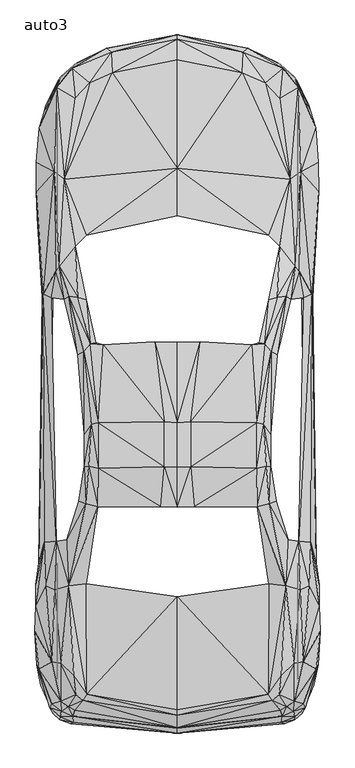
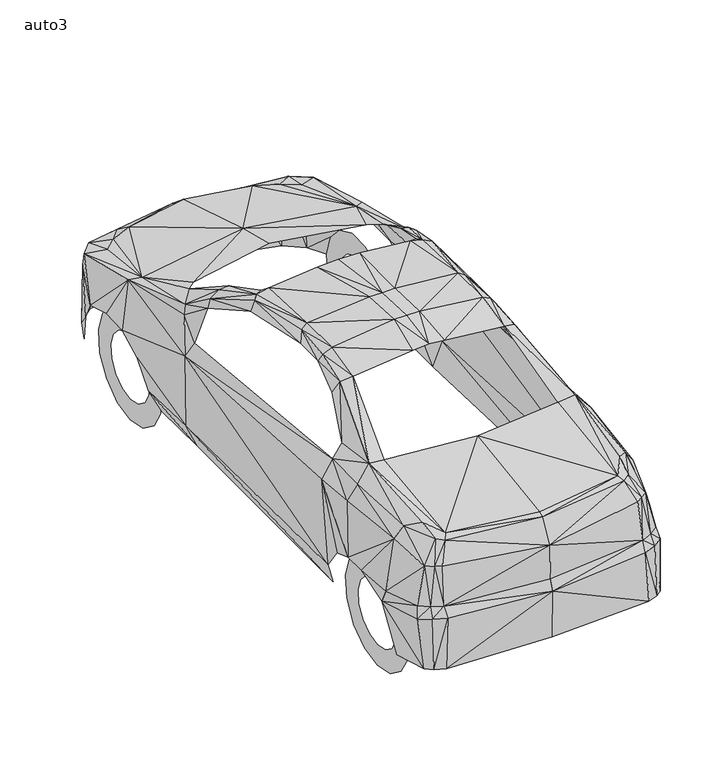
"""IFC4 building model written with IfcOpenShell, lengths in millimetres: proxy geometry, M_RPC maschio : auto3."""

from ifc_helpers import new_model, si_unit, origin, place, context, project, spatial, triangles, source, transform, mapped, element, save


def auto3_8ea4b4d7(model_context):
    return source(origin(), model_context, "Body", "Tessellation", [
        triangles([(496.2733054, 203.2735481, 1064.7400967), (600.6846285, 441.3478063, 1057.9405844), (589.0478751, 193.6903394, 1081.1228176), (432.79593, 622.4704353, 1292.4554123), (724.4905163, 430.0761469, 887.4507002), (658.7315214, 433.2249009, 985.7926626), (753.9246935, 315.8534314, 452.3730781), (696.5623518, 363.4500175, 300.5932982), (728.0956741, 1776.5168541, 815.4397614), (685.6557501, 1756.4378471, 891.8316101), (554.4570359, 2841.3940063, 757.9861462), (765.7439575, 2493.7515633, 655.4458208), (669.8205975, 2441.2722084, 855.7349035), (656.9061241, 2899.6689377, 731.6094858), (353.0271435, 2978.4338974, 739.8693014), (0.0, 3048.8476227, 740.8732372), (767.4780813, 2331.7496784, 650.1066118), (382.9632523, 3111.6403015, 603.9702928), (319.9878811, 3089.7358246, 278.734458), (0.0, 3141.3940086, 279.920959), (0.0, 3184.198954, 591.6946612), (723.577854, 2766.0058754, 454.8373172), (550.0305256, 3031.2327095, 276.8178236), (714.3141026, 2801.3269753, 295.299726), (645.4518814, 2944.9382675, 283.6629726), (561.7129157, 3020.9650223, 624.0494087), (358.5032627, 3090.1465553, 658.3664274), (572.1175495, 3002.8481049, 705.2328981), (0.0, 3159.6475456, 649.2395136), (475.6465848, 2925.4978844, 738.5459084), (750.5020826, 2679.3463394, 584.2562708), (633.4957071, 2956.438147, 622.0414644), (745.4823309, 2107.8220676, 410.0244275), (677.9891396, 2089.1576546, 275.0380812), (734.2562719, 1756.8029411, 406.9669106), (676.2094517, 1748.8624374, 277.5023385), (760.4047485, 2195.4399754, 565.363674), (90.0821559, 620.7363115, 1329.1453239), (71.2808144, 838.5489613, 1378.0196663), (72.2391362, 1082.2362671, 1368.2083466), (0.0, 1078.3573614, 1369.9423977), (0.0, 617.9526878, 1340.0975624), (0.0, 837.3624784, 1379.7994995), (0.0, 2203.4259705, 986.4772139), (0.0, 2461.1686684, 921.7677189), (660.3286623, 1901.50937, 968.9080101), (613.5535378, 2401.1595406, 876.0421669), (554.5939462, 2035.4004707, 1007.195208), (496.2733054, 1745.3486984, 1180.5143526), (591.0101463, 1764.286932, 1122.9694639), (614.1923796, 1747.6303905, 1084.1346977), (640.9341339, 1927.8859577, 1007.788413), (495.9082114, 2096.4134617, 989.4434572), (540.8580113, 1760.0428596, 1161.7130293), (473.912461, 1505.7227726, 1265.8048588), (541.3143788, 1448.3604309, 1221.5396828), (123.4864851, 1516.5837376, 1301.6734543), (404.2744878, 1502.2546703, 1283.8761395), (444.3870466, 1513.7087677, 1274.6123154), (0.0, 1515.6711479, 1307.1039368), (509.324689, 1466.9792072, 1265.5311836), (431.2900263, 831.8407225, 1340.5539299), (431.3356267, 1078.7680922, 1338.956789), (481.6246719, 841.3326576, 1310.9372784), (505.6739671, 842.7929609, 1278.7651142), (467.8887371, 1070.5082766, 1314.588073), (505.8108773, 1015.24508, 1278.5369305), (536.2033173, 651.630792, 1215.1964653), (498.5549975, 636.7996479, 1271.7373455), (754.4266977, -260.279934, 640.1126724), (774.2319569, -54.7429385, 650.7454536), (716.2307734, 193.0514431, 899.9088787), (682.7807802, -448.5215326, 641.5729757), (633.0849764, -434.4661406, 855.6892668), (569.0143959, -516.2885081, 639.9757622), (0.0, -579.7202105, 848.3421135), (0.0, -581.8193919, 646.9121847), (630.4381903, -487.4476087, 641.9837065), (694.7369545, -470.1521891, 578.1869102), (635.9143095, -518.7071105, 585.2602066), (638.059164, -533.6751649, 291.1469998), (578.9170618, -556.6292507, 291.3295286), (564.6791591, -547.730557, 585.1233327), (0.0, -607.2833536, 586.3098155), (0.0, -606.0968708, 310.5872194), (741.466515, -346.9851431, 304.2440565), (674.9316954, -502.6438468, 289.3672574), (763.9186329, -236.6869882, 567.8279131), (770.0792307, 198.2993968, 598.9505047), (770.9006922, 86.4953018, 641.3904287), (635.0929207, -228.4271726, 973.8821251), (492.5312737, -397.7305195, 985.1538208), (564.4509753, -296.0116193, 1012.8082375), (551.8102498, -399.4190065, 970.4139502), (593.4743855, -464.4479224, 860.2982878), (558.7010356, -484.2988546, 858.7923477), (514.2075668, -427.9860855, 966.5806812), (0.0, -511.633814, 978.5824923), (0.0, -479.5985238, 990.7212135), (0.0, 132.3578004, 1078.5216682), (683.0546007, -219.2546765, 906.7540277), (667.1738113, 170.6449983, 994.828303), (-496.2733054, 203.2735481, 1064.7400967), (-600.6846285, 441.3478063, 1057.9405844), (-589.0478751, 193.6903394, 1081.1228176), (-432.79593, 622.4704353, 1292.4554123), (-724.4905163, 430.0761469, 887.4507002), (-658.7315214, 433.2249009, 985.7926626), (-753.9246935, 315.8534314, 452.3730781), (-696.5623518, 363.4500175, 300.5932982), (-728.0956741, 1776.5168541, 815.4397614), (-685.6101133, 1756.4378471, 891.8316101), (-554.4570359, 2841.3940063, 757.9861462), (-765.7439575, 2493.7515633, 655.4458208), (-669.8205975, 2441.2722084, 855.7349035), (-656.9061241, 2899.6689377, 731.6094858), (-353.0271435, 2978.4338974, 739.8693014), (-767.4780813, 2331.7496784, 650.1066118), (-382.9632523, 3111.6403015, 603.9702928), (-319.9422443, 3089.7358246, 278.734458), (-723.577854, 2766.0058754, 454.8373172), (-550.0305256, 3031.2327095, 276.8178236), (-714.3141026, 2801.3269753, 295.299726), (-645.4518814, 2944.9382675, 283.6629726), (-561.7129157, 3020.9650223, 624.0494087), (-358.5032627, 3090.1465553, 658.3664274), (-572.1175495, 3002.8481049, 705.2328981), (-475.6465848, 2925.4978844, 738.5459084), (-750.5020826, 2679.3463394, 584.2562708), (-633.4957071, 2956.438147, 622.0414644), (-745.4823309, 2107.8220676, 410.0244275), (-677.9891396, 2089.1576546, 275.0380812), (-734.2562719, 1756.8029411, 406.9669106), (-676.2094517, 1748.8624374, 277.5023385), (-760.4047485, 2195.4399754, 565.363674), (-90.0821559, 620.7363115, 1329.1453239), (-71.2808144, 838.5489613, 1378.0196663), (-72.2391362, 1082.2362671, 1368.2083466), (-660.3286623, 1901.50937, 968.9080101), (-613.5535378, 2401.1595406, 876.0421669), (-554.5939462, 2035.4004707, 1007.195208), (-496.2733054, 1745.3486984, 1180.5143526), (-591.0101463, 1764.286932, 1122.9694639), (-614.1923796, 1747.6303905, 1084.1346977), (-640.9341339, 1927.8859577, 1007.788413), (-495.9082114, 2096.4134617, 989.4434572), (-540.8580113, 1760.0428596, 1161.7130293), (-473.912461, 1505.7227726, 1265.8048588), (-541.3143788, 1448.3604309, 1221.5396828), (-123.4864851, 1516.5837376, 1301.6734543), (-404.2744878, 1502.2546703, 1283.8761395), (-444.3870466, 1513.7087677, 1274.6123154), (-509.324689, 1466.9792072, 1265.5311836), (-431.2900263, 831.8407225, 1340.5539299), (-431.3356267, 1078.7680922, 1338.956789), (-481.6246719, 841.3326576, 1310.9372784), (-505.6739671, 842.7929609, 1278.7651142), (-467.8887371, 1070.5082766, 1314.588073), (-505.8108773, 1015.24508, 1278.5369305), (-536.2033173, 651.630792, 1215.1964653), (-498.5549975, 636.7996479, 1271.7373455), (-754.4266977, -260.279934, 640.1126724), (-774.1863201, -54.7429385, 650.7454536), (-716.2307734, 193.0514431, 899.9088787), (-682.7807802, -448.5215326, 641.5729757), (-633.0849764, -434.4661406, 855.6892668), (-569.0143959, -516.2885081, 639.9757622), (-630.4381903, -487.4476087, 641.9837065), (-694.7369545, -470.1521891, 578.1869102), (-635.9143095, -518.7071105, 585.2602066), (-638.059164, -533.6751649, 291.1469998), (-578.9170618, -556.6292507, 291.3295286), (-564.6791591, -547.730557, 585.1233327), (-741.466515, -346.9851431, 304.2440565), (-674.9316954, -502.6438468, 289.3672574), (-763.9186329, -236.6869882, 567.8279131), (-770.0792307, 198.2993968, 598.9505047), (-770.9006922, 86.4953018, 641.3904287), (-635.0929207, -228.4271726, 973.8821251), (-492.5312737, -397.7305195, 985.1538208), (-564.4509753, -296.0116193, 1012.8082375), (-551.8102498, -399.4190065, 970.4139502), (-593.4743855, -464.4479224, 860.2982878), (-558.7010356, -484.2988546, 858.7923477), (-514.2075668, -427.9860855, 966.5806812), (-683.0546007, -219.2546765, 906.7540277), (-667.1738113, 170.6449983, 994.828303), (-652.8309368, 2448.2403877, 0.0182537), (-652.8309368, 2448.2403877, 123.5960078), (-652.8309368, 2577.5682495, 27.4901166), (-652.8309368, 2527.2791679, 140.435069), (-652.8309368, 2684.5349762, 105.2053698), (-652.8309368, 2592.6731415, 187.9403997), (-652.8309368, 2750.6591377, 219.7018876), (-652.8309368, 2633.0596298, 257.8978302), (-652.8309368, 2764.4408546, 351.1743859), (-652.8309368, 2641.5018471, 338.2598763), (-652.8309368, 2723.5979988, 476.9425813), (-652.8309368, 2616.5399986, 415.1080925), (-652.8309368, 2635.1129929, 575.1933065), (-652.8309368, 2562.4630669, 475.1628571), (-652.8309368, 2514.3645493, 628.9504904), (-652.8309368, 2488.6268761, 508.0652092), (-652.8309368, 2382.1163715, 628.9504904), (-652.8309368, 2407.8540447, 508.0652092), (-652.8309368, 2261.3679279, 575.1933065), (-652.8309368, 2334.0177086, 475.1628571), (-652.8309368, 2172.882922, 476.9425813), (-652.8309368, 2279.9410675, 415.1080925), (-652.8309368, 2132.0402115, 351.1743859), (-652.8309368, 2254.9790737, 338.2598763), (-652.8309368, 2145.8217831, 219.7018876), (-652.8309368, 2263.4214363, 257.8978302), (-652.8309368, 2211.9459446, 105.2053698), (-652.8309368, 2303.8077793, 187.9403997), (-652.8309368, 2318.9128166, 27.4901166), (-652.8309368, 2369.2018982, 140.435069), (652.8309368, 2448.2403877, 0.0182537), (652.8309368, 2448.2403877, 123.5960078), (652.8309368, 2318.9128166, 27.4901166), (652.8309368, 2369.2018982, 140.435069), (652.8309368, 2211.9459446, 105.2053698), (652.8309368, 2303.8077793, 187.9403997), (652.8309368, 2145.8217831, 219.7018876), (652.8309368, 2263.4214363, 257.8978302), (652.8309368, 2132.0402115, 351.1743859), (652.8309368, 2254.9790737, 338.2598763), (652.8309368, 2172.882922, 476.9425813), (652.8309368, 2279.9410675, 415.1080925), (652.8309368, 2261.3679279, 575.1933065), (652.8309368, 2334.0177086, 475.1628571), (652.8309368, 2382.1163715, 628.9504904), (652.8309368, 2407.8540447, 508.0652092), (652.8309368, 2514.3645493, 628.9504904), (652.8309368, 2488.6268761, 508.0652092), (652.8309368, 2635.1129929, 575.1933065), (652.8309368, 2562.4630669, 475.1628571), (652.8309368, 2723.5979988, 476.9425813), (652.8309368, 2616.5399986, 415.1080925), (652.8309368, 2764.4408546, 351.1743859), (652.8309368, 2641.5018471, 338.2598763), (652.8309368, 2750.6591377, 219.7018876), (652.8309368, 2633.0596298, 257.8978302), (652.8309368, 2684.5349762, 105.2053698), (652.8309368, 2592.6731415, 187.9403997), (652.8309368, 2577.5682495, 27.4901166), (652.8309368, 2527.2791679, 140.435069), (-652.8309368, 0.0, 0.0182537), (-652.8309368, 0.0, 123.5960078), (-652.8309368, 129.3276801, 27.4901166), (-652.8309368, 79.038653, 140.435069), (-652.8309368, 236.294534, 105.2053698), (-652.8309368, 144.4326357, 187.9403997), (-652.8309368, 302.4186773, 219.7018876), (-652.8309368, 184.8190241, 257.8978302), (-652.8309368, 316.2002489, 351.1743859), (-652.8309368, 193.2613685, 338.2598763), (-652.8309368, 275.3575202, 476.9425813), (-652.8309368, 168.2993929, 415.1080925), (-652.8309368, 186.8725688, 575.1933065), (-652.8309368, 114.2227155, 475.1628571), (-652.8309368, 66.1241388, 628.9504904), (-652.8309368, 40.3863793, 508.0652092), (-652.8309368, -66.1241388, 628.9504904), (-652.8309368, -40.3863793, 508.0652092), (-652.8309368, -186.8725688, 575.1933065), (-652.8309368, -114.2227155, 475.1628571), (-652.8309368, -275.3575202, 476.9425813), (-652.8309368, -168.2993929, 415.1080925), (-652.8309368, -316.2002489, 351.1743859), (-652.8309368, -193.2613685, 338.2598763), (-652.8309368, -302.4186773, 219.7018876), (-652.8309368, -184.8190241, 257.8978302), (-652.8309368, -236.294534, 105.2053698), (-652.8309368, -144.4326357, 187.9403997), (-652.8309368, -129.3276801, 27.4901166), (-652.8309368, -79.038653, 140.435069), (652.8309368, 0.0, 0.0182537), (652.8309368, 0.0, 123.5960078), (652.8309368, -129.3276801, 27.4901166), (652.8309368, -79.038653, 140.435069), (652.8309368, -236.294534, 105.2053698), (652.8309368, -144.4326357, 187.9403997), (652.8309368, -302.4186773, 219.7018876), (652.8309368, -184.8190241, 257.8978302), (652.8309368, -316.2002489, 351.1743859), (652.8309368, -193.2613685, 338.2598763), (652.8309368, -275.3575202, 476.9425813), (652.8309368, -168.2993929, 415.1080925), (652.8309368, -186.8725688, 575.1933065), (652.8309368, -114.2227155, 475.1628571), (652.8309368, -66.1241388, 628.9504904), (652.8309368, -40.3863793, 508.0652092), (652.8309368, 66.1241388, 628.9504904), (652.8309368, 40.3863793, 508.0652092), (652.8309368, 186.8725688, 575.1933065), (652.8309368, 114.2227155, 475.1628571), (652.8309368, 275.3575202, 476.9425813), (652.8309368, 168.2993929, 415.1080925), (652.8309368, 316.2002489, 351.1743859), (652.8309368, 193.2613685, 338.2598763), (652.8309368, 302.4186773, 219.7018876), (652.8309368, 184.8190241, 257.8978302), (652.8309368, 236.294534, 105.2053698), (652.8309368, 144.4326357, 187.9403997), (652.8309368, 129.3276801, 27.4901166), (652.8309368, 79.038653, 140.435069)], [[4, 1, 3], [4, 3, 69], [14, 13, 31], [13, 12, 31], [17, 9, 37], [18, 26, 23], [18, 23, 19], [20, 21, 18], [20, 18, 19], [27, 28, 18], [28, 26, 18], [27, 15, 30], [28, 27, 30], [29, 15, 27], [29, 27, 21], [27, 18, 21], [16, 15, 29], [47, 15, 45], [25, 32, 22], [25, 22, 24], [26, 32, 25], [26, 25, 23], [11, 28, 30], [14, 31, 32], [32, 31, 22], [14, 26, 28], [14, 32, 26], [11, 14, 28], [35, 7, 8], [36, 35, 8], [33, 35, 36], [34, 33, 36], [37, 35, 33], [9, 5, 7], [9, 7, 35], [9, 17, 13], [9, 35, 37], [42, 38, 39], [43, 42, 39], [40, 41, 43], [40, 43, 39], [48, 52, 47], [46, 9, 13], [17, 12, 13], [52, 46, 13], [52, 13, 47], [30, 15, 47], [47, 11, 30], [16, 45, 15], [47, 13, 14], [47, 14, 11], [9, 10, 6], [9, 6, 5], [52, 50, 51], [52, 51, 46], [54, 50, 52], [46, 51, 10], [47, 53, 48], [53, 47, 45], [44, 53, 45], [46, 10, 9], [54, 52, 48], [49, 54, 48], [40, 63, 58], [57, 40, 58], [63, 55, 58], [41, 40, 57], [60, 41, 57], [55, 59, 58], [55, 54, 49], [59, 55, 49], [55, 61, 50], [55, 50, 54], [50, 61, 56], [50, 56, 51], [38, 4, 62], [39, 38, 62], [61, 66, 67], [61, 67, 56], [66, 64, 65], [66, 65, 67], [62, 64, 66], [62, 66, 63], [63, 66, 61], [63, 61, 55], [69, 3, 2], [68, 69, 2], [69, 68, 65], [69, 65, 64], [4, 69, 64], [4, 64, 62], [63, 40, 39], [63, 39, 62], [74, 73, 70], [101, 74, 70], [101, 70, 71], [5, 72, 90], [90, 72, 101], [90, 101, 71], [76, 77, 75], [96, 76, 75], [78, 73, 74], [95, 78, 74], [75, 78, 95], [96, 75, 95], [7, 5, 89], [5, 90, 89], [78, 80, 79], [73, 78, 79], [75, 83, 80], [78, 75, 80], [83, 82, 81], [80, 83, 81], [84, 85, 82], [83, 84, 82], [84, 83, 75], [77, 84, 75], [81, 87, 79], [80, 81, 79], [87, 88, 79], [88, 87, 86], [73, 79, 88], [73, 88, 70], [70, 88, 71], [94, 91, 93], [93, 92, 94], [95, 74, 94], [97, 95, 94], [96, 95, 97], [76, 96, 97], [98, 76, 97], [97, 94, 92], [98, 97, 92], [99, 98, 92], [100, 99, 92], [100, 92, 1], [6, 102, 72], [6, 72, 5], [102, 91, 101], [102, 101, 72], [74, 101, 91], [94, 74, 91], [3, 1, 92], [3, 92, 93], [3, 93, 91], [3, 91, 102], [3, 102, 6], [3, 6, 2], [106, 105, 103], [106, 161, 105], [116, 129, 115], [115, 129, 114], [118, 135, 111], [119, 122, 125], [119, 120, 122], [20, 119, 21], [20, 120, 119], [126, 119, 127], [127, 119, 125], [126, 128, 117], [127, 128, 126], [29, 126, 117], [29, 21, 126], [126, 21, 119], [16, 29, 117], [140, 128, 113], [124, 121, 130], [124, 123, 121], [125, 124, 130], [125, 122, 124], [113, 127, 116], [116, 130, 129], [130, 121, 129], [116, 127, 125], [116, 125, 130], [128, 127, 113], [133, 110, 109], [134, 110, 133], [131, 134, 133], [132, 134, 131], [135, 131, 133], [111, 109, 107], [111, 133, 109], [115, 114, 118], [111, 135, 133], [42, 137, 136], [43, 137, 42], [138, 43, 41], [138, 137, 43], [141, 140, 145], [139, 115, 111], [111, 115, 118], [145, 115, 139], [145, 140, 115], [140, 45, 117], [117, 128, 140], [16, 117, 45], [140, 116, 115], [140, 113, 116], [111, 108, 112], [111, 107, 108], [145, 144, 143], [145, 139, 144], [147, 145, 143], [139, 112, 144], [140, 141, 146], [146, 45, 140], [44, 45, 146], [139, 111, 112], [147, 141, 145], [142, 141, 147], [138, 151, 155], [150, 151, 138], [155, 151, 148], [41, 150, 138], [60, 150, 41], [148, 151, 152], [148, 142, 147], [152, 142, 148], [148, 143, 153], [148, 147, 143], [143, 149, 153], [143, 144, 149], [136, 154, 106], [137, 154, 136], [153, 159, 158], [153, 149, 159], [158, 157, 156], [158, 159, 157], [154, 158, 156], [154, 155, 158], [155, 153, 158], [155, 148, 153], [161, 104, 105], [160, 104, 161], [161, 157, 160], [161, 156, 157], [106, 156, 161], [106, 154, 156], [155, 137, 138], [155, 154, 137], [166, 162, 165], [186, 162, 166], [186, 163, 162], [107, 178, 164], [178, 186, 164], [178, 163, 186], [76, 167, 77], [184, 167, 76], [168, 166, 165], [183, 166, 168], [167, 183, 168], [184, 183, 167], [109, 177, 107], [107, 177, 178], [168, 169, 170], [165, 169, 168], [167, 170, 173], [168, 170, 167], [173, 171, 172], [170, 171, 173], [84, 172, 85], [173, 172, 84], [84, 167, 173], [77, 167, 84], [171, 169, 175], [170, 169, 171], [175, 169, 176], [176, 174, 175], [165, 176, 169], [165, 162, 176], [162, 163, 176], [182, 181, 179], [181, 182, 180], [183, 182, 166], [185, 182, 183], [184, 185, 183], [76, 185, 184], [98, 185, 76], [185, 180, 182], [98, 180, 185], [99, 180, 98], [100, 180, 99], [100, 103, 180], [108, 164, 187], [108, 107, 164], [187, 186, 179], [187, 164, 186], [166, 179, 186], [182, 179, 166], [105, 180, 103], [105, 181, 180], [105, 179, 181], [105, 187, 179], [105, 108, 187], [105, 104, 108], [188, 191, 190], [188, 189, 191], [190, 193, 192], [190, 191, 193], [192, 195, 194], [192, 193, 195], [194, 197, 196], [194, 195, 197], [196, 199, 198], [196, 197, 199], [198, 201, 200], [198, 199, 201], [200, 203, 202], [200, 201, 203], [202, 205, 204], [202, 203, 205], [204, 207, 206], [204, 205, 207], [206, 209, 208], [206, 207, 209], [208, 211, 210], [208, 209, 211], [210, 213, 212], [210, 211, 213], [212, 215, 214], [212, 213, 215], [214, 217, 216], [214, 215, 217], [216, 189, 188], [216, 217, 189], [218, 221, 220], [218, 219, 221], [220, 223, 222], [220, 221, 223], [222, 225, 224], [222, 223, 225], [224, 227, 226], [224, 225, 227], [226, 229, 228], [226, 227, 229], [228, 231, 230], [228, 229, 231], [230, 233, 232], [230, 231, 233], [232, 235, 234], [232, 233, 235], [234, 237, 236], [234, 235, 237], [236, 239, 238], [236, 237, 239], [238, 241, 240], [238, 239, 241], [240, 243, 242], [240, 241, 243], [242, 245, 244], [242, 243, 245], [244, 247, 246], [244, 245, 247], [246, 219, 218], [246, 247, 219], [248, 251, 250], [248, 249, 251], [250, 253, 252], [250, 251, 253], [252, 255, 254], [252, 253, 255], [254, 257, 256], [254, 255, 257], [256, 259, 258], [256, 257, 259], [258, 261, 260], [258, 259, 261], [260, 263, 262], [260, 261, 263], [262, 265, 264], [262, 263, 265], [264, 267, 266], [264, 265, 267], [266, 269, 268], [266, 267, 269], [268, 271, 270], [268, 269, 271], [270, 273, 272], [270, 271, 273], [272, 275, 274], [272, 273, 275], [274, 277, 276], [274, 275, 277], [276, 249, 248], [276, 277, 249], [278, 281, 280], [278, 279, 281], [280, 283, 282], [280, 281, 283], [282, 285, 284], [282, 283, 285], [284, 287, 286], [284, 285, 287], [286, 289, 288], [286, 287, 289], [288, 291, 290], [288, 289, 291], [290, 293, 292], [290, 291, 293], [292, 295, 294], [292, 293, 295], [294, 297, 296], [294, 295, 297], [296, 299, 298], [296, 297, 299], [298, 301, 300], [298, 299, 301], [300, 303, 302], [300, 301, 303], [302, 305, 304], [302, 303, 305], [304, 307, 306], [304, 305, 307], [306, 279, 278], [306, 307, 279]], closed=False),
    ])


if __name__ == "__main__":
    model = new_model("IFC4")
    model_context = context("Model", 3, world=origin())
    ifc_project = project(units=[si_unit("LENGTHUNIT", "METRE", prefix="MILLI")], contexts=[model_context])
    site = spatial("IfcSite", under=ifc_project)
    building = spatial("IfcBuilding", under=site)
    placement = place(None, origin())
    auto3_shape = auto3_8ea4b4d7(model_context)
    element("IfcBuildingElementProxy", 1, Name="M_RPC maschio : auto3", ObjectType="M_RPC maschio : auto3", at=placement, inside=building, context=model_context, shape_type="MappedRepresentation", body=[
        mapped(auto3_shape, transform((0.0, 0.0, 0.0), x_axis=(1.0, 0.0, 0.0), y_axis=(0.0, 1.0, 0.0), z_axis=(0.0, 0.0, 1.0))),
    ])
    save(model, "model.ifc")
